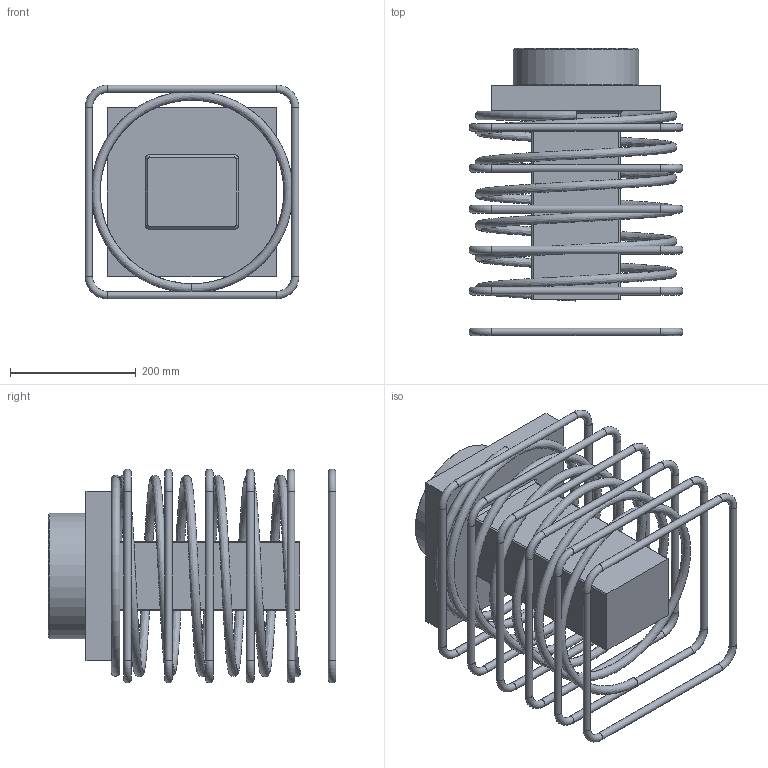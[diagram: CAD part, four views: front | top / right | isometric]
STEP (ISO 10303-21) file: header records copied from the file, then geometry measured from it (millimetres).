
FILE_DESCRIPTION(/* description */ (''),/* implementation_level */ '2;1');
FILE_NAME(/* name */ 'Z:\04 Publications\05 Give-out\BBR\6_3D_Models\BBR VT CONA CMB\03 x 406\BBR VT CONA CMB SP_03 x 406_Anchorage A Assembly.stp',/* time_stamp */ '2017-05-09T11:59:01+02:00',/* author */ ('IP'),/* organization */ (''),/* preprocessor_version */ 'ST-DEVELOPER v16.1',/* originating_system */ 'Autodesk Inventor 2016',/* authorisation */ '');
FILE_SCHEMA (('AUTOMOTIVE_DESIGN { 1 0 10303 214 3 1 1 }'));
Length unit declared in the file: millimetre
Products named in the file (1): BBR VT CONA CMB SP_03 x 406_Anchorage A Assembly
Bounding box: 340 x 457.1 x 340 mm (x, y, z)
Volume: 11238953.8 mm3; surface area: 933537.1 mm2
Topology: 3 solids, 3 shells, 734 faces, 1955 edges, 1286 vertices
Faces by surface type: plane 347, bspline 327, cylinder 29, torus 25, cone 6
Full cylindrical faces by diameter (mm): 12 x24, 200 x1
Entity records: 28030 total; most frequent: CARTESIAN_POINT 11379, ORIENTED_EDGE 3810, DIRECTION 2128, EDGE_CURVE 1902, VERTEX_POINT 1285, LINE 1170, VECTOR 1170, EDGE_LOOP 864
